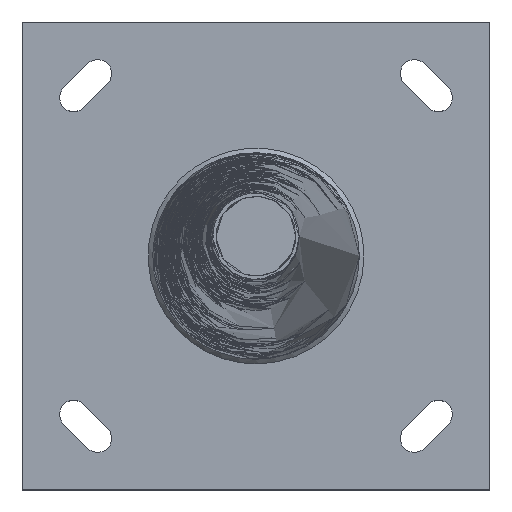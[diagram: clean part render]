
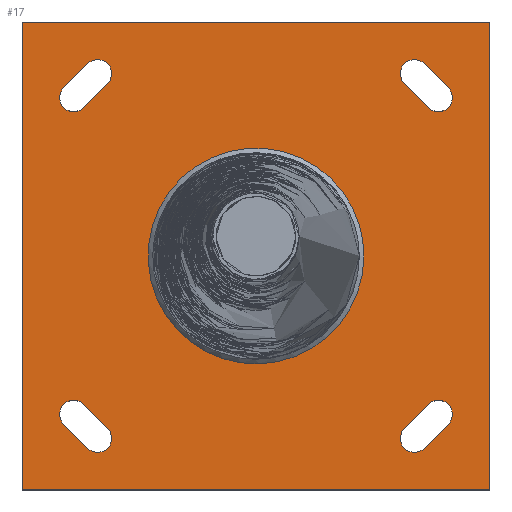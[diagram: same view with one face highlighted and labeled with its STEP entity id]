
A CAD part, top view. The second image highlights one B-rep face of the part: STEP entity #17.
In plain terms, the highlighted planar face has unit normal (0, 0, 1).
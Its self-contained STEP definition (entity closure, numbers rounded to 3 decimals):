
#17 = ADVANCED_FACE('',(#18,#57,#91,#127,#163,#199),#235,.T.);
#18 = FACE_BOUND('',#19,.T.);
#19 = EDGE_LOOP('',(#20));
#20 = ORIENTED_EDGE('',*,*,#21,.T.);
#21 = EDGE_CURVE('',#22,#22,#24,.T.);
#22 = VERTEX_POINT('',#23);
#23 = CARTESIAN_POINT('',(94.974,0.,5.));
#24 = B_SPLINE_CURVE_WITH_KNOTS('',11,(#25,#26,#27,#28,#29,#30,#31,#32,
    #33,#34,#35,#36,#37,#38,#39,#40,#41,#42,#43,#44,#45,#46,#47,#48,#49,
    #50,#51,#52,#53,#54,#55,#56),.UNSPECIFIED.,.T.,.F.,(12,10,10,12),(
    0.,142.901,285.802,571.603)
  ,.UNSPECIFIED.);
#25 = CARTESIAN_POINT('',(94.974,0.,5.));
#26 = CARTESIAN_POINT('',(94.973,-13.562,5.));
#27 = CARTESIAN_POINT('',(92.843,-27.125,5.
    ));
#28 = CARTESIAN_POINT('',(88.583,-40.313,5.
    ));
#29 = CARTESIAN_POINT('',(82.264,-52.766,5.
    ));
#30 = CARTESIAN_POINT('',(74.035,-64.104,5.
    ));
#31 = CARTESIAN_POINT('',(64.109,-74.039,5.));
#32 = CARTESIAN_POINT('',(52.761,-82.263,5.));
#33 = CARTESIAN_POINT('',(40.315,-88.583,5.));
#34 = CARTESIAN_POINT('',(27.124,-92.843,5.));
#35 = CARTESIAN_POINT('',(13.562,-94.974,5.));
#36 = CARTESIAN_POINT('',(-13.562,-94.974,5.));
#37 = CARTESIAN_POINT('',(-27.125,-92.843,5.
    ));
#38 = CARTESIAN_POINT('',(-40.315,-88.583,5.
    ));
#39 = CARTESIAN_POINT('',(-52.762,-82.264,5.
    ));
#40 = CARTESIAN_POINT('',(-64.109,-74.035,5.
    ));
#41 = CARTESIAN_POINT('',(-74.035,-64.109,5.
    ));
#42 = CARTESIAN_POINT('',(-82.265,-52.761,5.
    ));
#43 = CARTESIAN_POINT('',(-88.583,-40.315,5.
    ));
#44 = CARTESIAN_POINT('',(-92.843,-27.124,5.
    ));
#45 = CARTESIAN_POINT('',(-94.974,-13.562,5.));
#46 = CARTESIAN_POINT('',(-94.974,27.125,5.));
#47 = CARTESIAN_POINT('',(-86.452,54.249,5.));
#48 = CARTESIAN_POINT('',(-69.409,78.399,5.
    ));
#49 = CARTESIAN_POINT('',(-45.013,96.599,5.
    ));
#50 = CARTESIAN_POINT('',(-15.6,106.402,5.
    ));
#51 = CARTESIAN_POINT('',(15.6,106.401,5.
    ));
#52 = CARTESIAN_POINT('',(45.014,96.598,5.
    ));
#53 = CARTESIAN_POINT('',(69.409,78.4,5.)
  );
#54 = CARTESIAN_POINT('',(86.453,54.248,5.));
#55 = CARTESIAN_POINT('',(94.974,27.124,5.));
#56 = CARTESIAN_POINT('',(94.974,0.,5.));
#57 = FACE_BOUND('',#58,.T.);
#58 = EDGE_LOOP('',(#59,#69,#77,#85));
#59 = ORIENTED_EDGE('',*,*,#60,.T.);
#60 = EDGE_CURVE('',#61,#63,#65,.T.);
#61 = VERTEX_POINT('',#62);
#62 = CARTESIAN_POINT('',(-206.,206.,5.));
#63 = VERTEX_POINT('',#64);
#64 = CARTESIAN_POINT('',(-206.,-206.,5.));
#65 = LINE('',#66,#67);
#66 = CARTESIAN_POINT('',(-206.,206.,5.));
#67 = VECTOR('',#68,1.);
#68 = DIRECTION('',(0.,-1.,0.));
#69 = ORIENTED_EDGE('',*,*,#70,.T.);
#70 = EDGE_CURVE('',#63,#71,#73,.T.);
#71 = VERTEX_POINT('',#72);
#72 = CARTESIAN_POINT('',(206.,-206.,5.));
#73 = LINE('',#74,#75);
#74 = CARTESIAN_POINT('',(-206.,-206.,5.));
#75 = VECTOR('',#76,1.);
#76 = DIRECTION('',(1.,0.,0.));
#77 = ORIENTED_EDGE('',*,*,#78,.T.);
#78 = EDGE_CURVE('',#71,#79,#81,.T.);
#79 = VERTEX_POINT('',#80);
#80 = CARTESIAN_POINT('',(206.,206.,5.));
#81 = LINE('',#82,#83);
#82 = CARTESIAN_POINT('',(206.,-206.,5.));
#83 = VECTOR('',#84,1.);
#84 = DIRECTION('',(0.,1.,0.));
#85 = ORIENTED_EDGE('',*,*,#86,.T.);
#86 = EDGE_CURVE('',#79,#61,#87,.T.);
#87 = LINE('',#88,#89);
#88 = CARTESIAN_POINT('',(206.,206.,5.));
#89 = VECTOR('',#90,1.);
#90 = DIRECTION('',(-1.,0.,0.));
#91 = FACE_BOUND('',#92,.T.);
#92 = EDGE_LOOP('',(#93,#104,#112,#121));
#93 = ORIENTED_EDGE('',*,*,#94,.F.);
#94 = EDGE_CURVE('',#95,#97,#99,.T.);
#95 = VERTEX_POINT('',#96);
#96 = CARTESIAN_POINT('',(-151.768,-130.555,5.));
#97 = VERTEX_POINT('',#98);
#98 = CARTESIAN_POINT('',(-169.445,-148.232,5.));
#99 = CIRCLE('',#100,12.5);
#100 = AXIS2_PLACEMENT_3D('',#101,#102,#103);
#101 = CARTESIAN_POINT('',(-160.607,-139.393,5.));
#102 = DIRECTION('',(0.,-0.,1.));
#103 = DIRECTION('',(0.,1.,0.));
#104 = ORIENTED_EDGE('',*,*,#105,.T.);
#105 = EDGE_CURVE('',#95,#106,#108,.T.);
#106 = VERTEX_POINT('',#107);
#107 = CARTESIAN_POINT('',(-130.555,-151.768,5.));
#108 = LINE('',#109,#110);
#109 = CARTESIAN_POINT('',(-151.768,-130.555,5.));
#110 = VECTOR('',#111,1.);
#111 = DIRECTION('',(0.707,-0.707,0.));
#112 = ORIENTED_EDGE('',*,*,#113,.F.);
#113 = EDGE_CURVE('',#114,#106,#116,.T.);
#114 = VERTEX_POINT('',#115);
#115 = CARTESIAN_POINT('',(-148.232,-169.445,5.));
#116 = CIRCLE('',#117,12.5);
#117 = AXIS2_PLACEMENT_3D('',#118,#119,#120);
#118 = CARTESIAN_POINT('',(-139.393,-160.607,5.));
#119 = DIRECTION('',(0.,-0.,1.));
#120 = DIRECTION('',(0.,1.,0.));
#121 = ORIENTED_EDGE('',*,*,#122,.F.);
#122 = EDGE_CURVE('',#97,#114,#123,.T.);
#123 = LINE('',#124,#125);
#124 = CARTESIAN_POINT('',(-169.445,-148.232,5.));
#125 = VECTOR('',#126,1.);
#126 = DIRECTION('',(0.707,-0.707,0.));
#127 = FACE_BOUND('',#128,.T.);
#128 = EDGE_LOOP('',(#129,#140,#148,#157));
#129 = ORIENTED_EDGE('',*,*,#130,.F.);
#130 = EDGE_CURVE('',#131,#133,#135,.T.);
#131 = VERTEX_POINT('',#132);
#132 = CARTESIAN_POINT('',(130.555,-151.768,5.));
#133 = VERTEX_POINT('',#134);
#134 = CARTESIAN_POINT('',(148.232,-169.445,5.));
#135 = CIRCLE('',#136,12.5);
#136 = AXIS2_PLACEMENT_3D('',#137,#138,#139);
#137 = CARTESIAN_POINT('',(139.393,-160.607,5.));
#138 = DIRECTION('',(0.,0.,1.));
#139 = DIRECTION('',(-1.,0.,0.));
#140 = ORIENTED_EDGE('',*,*,#141,.T.);
#141 = EDGE_CURVE('',#131,#142,#144,.T.);
#142 = VERTEX_POINT('',#143);
#143 = CARTESIAN_POINT('',(151.768,-130.555,5.));
#144 = LINE('',#145,#146);
#145 = CARTESIAN_POINT('',(130.555,-151.768,5.));
#146 = VECTOR('',#147,1.);
#147 = DIRECTION('',(0.707,0.707,0.));
#148 = ORIENTED_EDGE('',*,*,#149,.F.);
#149 = EDGE_CURVE('',#150,#142,#152,.T.);
#150 = VERTEX_POINT('',#151);
#151 = CARTESIAN_POINT('',(169.445,-148.232,5.));
#152 = CIRCLE('',#153,12.5);
#153 = AXIS2_PLACEMENT_3D('',#154,#155,#156);
#154 = CARTESIAN_POINT('',(160.607,-139.393,5.));
#155 = DIRECTION('',(0.,0.,1.));
#156 = DIRECTION('',(-1.,0.,0.));
#157 = ORIENTED_EDGE('',*,*,#158,.F.);
#158 = EDGE_CURVE('',#133,#150,#159,.T.);
#159 = LINE('',#160,#161);
#160 = CARTESIAN_POINT('',(148.232,-169.445,5.));
#161 = VECTOR('',#162,1.);
#162 = DIRECTION('',(0.707,0.707,0.));
#163 = FACE_BOUND('',#164,.T.);
#164 = EDGE_LOOP('',(#165,#176,#184,#193));
#165 = ORIENTED_EDGE('',*,*,#166,.F.);
#166 = EDGE_CURVE('',#167,#169,#171,.T.);
#167 = VERTEX_POINT('',#168);
#168 = CARTESIAN_POINT('',(-130.555,151.768,5.));
#169 = VERTEX_POINT('',#170);
#170 = CARTESIAN_POINT('',(-148.232,169.445,5.));
#171 = CIRCLE('',#172,12.5);
#172 = AXIS2_PLACEMENT_3D('',#173,#174,#175);
#173 = CARTESIAN_POINT('',(-139.393,160.607,5.));
#174 = DIRECTION('',(0.,0.,1.));
#175 = DIRECTION('',(1.,0.,0.));
#176 = ORIENTED_EDGE('',*,*,#177,.T.);
#177 = EDGE_CURVE('',#167,#178,#180,.T.);
#178 = VERTEX_POINT('',#179);
#179 = CARTESIAN_POINT('',(-151.768,130.555,5.));
#180 = LINE('',#181,#182);
#181 = CARTESIAN_POINT('',(-130.555,151.768,5.));
#182 = VECTOR('',#183,1.);
#183 = DIRECTION('',(-0.707,-0.707,0.));
#184 = ORIENTED_EDGE('',*,*,#185,.F.);
#185 = EDGE_CURVE('',#186,#178,#188,.T.);
#186 = VERTEX_POINT('',#187);
#187 = CARTESIAN_POINT('',(-169.445,148.232,5.));
#188 = CIRCLE('',#189,12.5);
#189 = AXIS2_PLACEMENT_3D('',#190,#191,#192);
#190 = CARTESIAN_POINT('',(-160.607,139.393,5.));
#191 = DIRECTION('',(0.,0.,1.));
#192 = DIRECTION('',(1.,0.,0.));
#193 = ORIENTED_EDGE('',*,*,#194,.F.);
#194 = EDGE_CURVE('',#169,#186,#195,.T.);
#195 = LINE('',#196,#197);
#196 = CARTESIAN_POINT('',(-148.232,169.445,5.));
#197 = VECTOR('',#198,1.);
#198 = DIRECTION('',(-0.707,-0.707,0.));
#199 = FACE_BOUND('',#200,.T.);
#200 = EDGE_LOOP('',(#201,#212,#220,#229));
#201 = ORIENTED_EDGE('',*,*,#202,.F.);
#202 = EDGE_CURVE('',#203,#205,#207,.T.);
#203 = VERTEX_POINT('',#204);
#204 = CARTESIAN_POINT('',(151.768,130.555,5.));
#205 = VERTEX_POINT('',#206);
#206 = CARTESIAN_POINT('',(169.445,148.232,5.));
#207 = CIRCLE('',#208,12.5);
#208 = AXIS2_PLACEMENT_3D('',#209,#210,#211);
#209 = CARTESIAN_POINT('',(160.607,139.393,5.));
#210 = DIRECTION('',(0.,0.,1.));
#211 = DIRECTION('',(0.,-1.,0.));
#212 = ORIENTED_EDGE('',*,*,#213,.T.);
#213 = EDGE_CURVE('',#203,#214,#216,.T.);
#214 = VERTEX_POINT('',#215);
#215 = CARTESIAN_POINT('',(130.555,151.768,5.));
#216 = LINE('',#217,#218);
#217 = CARTESIAN_POINT('',(151.768,130.555,5.));
#218 = VECTOR('',#219,1.);
#219 = DIRECTION('',(-0.707,0.707,0.));
#220 = ORIENTED_EDGE('',*,*,#221,.F.);
#221 = EDGE_CURVE('',#222,#214,#224,.T.);
#222 = VERTEX_POINT('',#223);
#223 = CARTESIAN_POINT('',(148.232,169.445,5.));
#224 = CIRCLE('',#225,12.5);
#225 = AXIS2_PLACEMENT_3D('',#226,#227,#228);
#226 = CARTESIAN_POINT('',(139.393,160.607,5.));
#227 = DIRECTION('',(0.,0.,1.));
#228 = DIRECTION('',(0.,-1.,0.));
#229 = ORIENTED_EDGE('',*,*,#230,.F.);
#230 = EDGE_CURVE('',#205,#222,#231,.T.);
#231 = LINE('',#232,#233);
#232 = CARTESIAN_POINT('',(169.445,148.232,5.));
#233 = VECTOR('',#234,1.);
#234 = DIRECTION('',(-0.707,0.707,0.));
#235 = PLANE('',#236);
#236 = AXIS2_PLACEMENT_3D('',#237,#238,#239);
#237 = CARTESIAN_POINT('',(0.,0.,5.));
#238 = DIRECTION('',(0.,0.,1.));
#239 = DIRECTION('',(1.,0.,0.));
